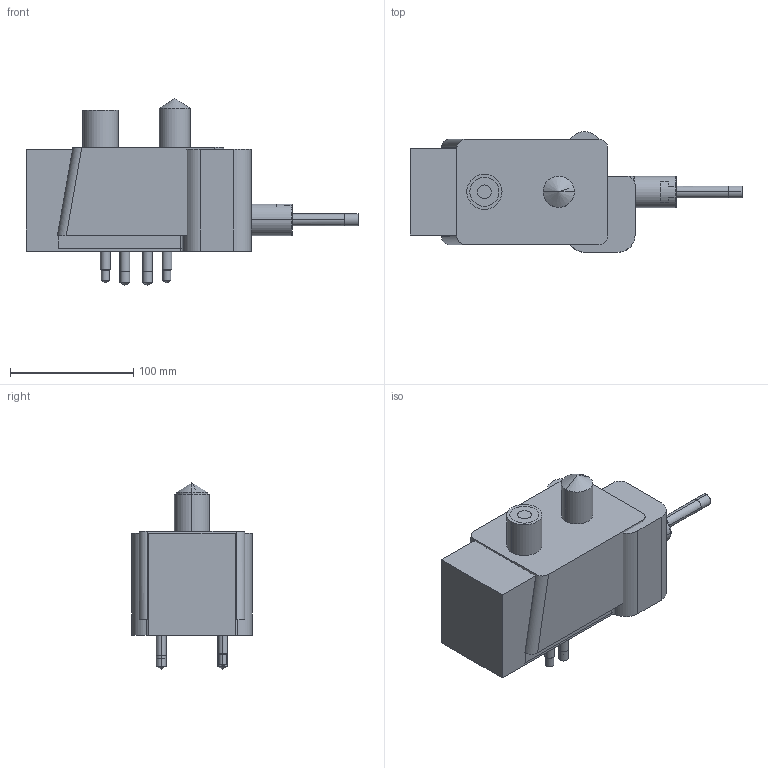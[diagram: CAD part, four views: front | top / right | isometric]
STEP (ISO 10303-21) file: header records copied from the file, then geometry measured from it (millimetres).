
FILE_DESCRIPTION((' '),'2;1');
FILE_NAME( 'EZ-00-P-L.stp', '2023-11-30T09:05:38', (' '), ('--- Datakit www.datakit.com---'), ' Datakit CrossCadWare V2020.4 Oct 21 2020', 'Export from SolidLink (Hexagon Production Software)', ' ');
FILE_SCHEMA(('AP242_MANAGED_MODEL_BASED_3D_ENGINEERING_MIM_LF { 1 0 10303 442 1 1 4 }'));
Length unit declared in the file: millimetre
Products named in the file (127): Workplanes; 1700579024; 1679433225; 1700503325; 1700503431; 1679424789; 1679424790; 1679424791; 1583513862; 1667491391; 1679424795; 1679424814; 1679424821; 1679424822; 1679424823; 1679424824; 1679424825; 1700842987; 1700843223; 1701270764; 1701353138; 1701353139; 1701353140; 1701353141; 1701353142; 1701353143; 1701353144; 1701353145; 1701353146; 1701353147; 1701353148; 1701353149; 1701353150; 1701353151; 1701353152; 1701353153; 1701353154; 1701353155; 1701353156; 1701353157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
Bounding box: 269.42 x 97.75 x 151.64 mm (x, y, z)
Volume: 2687510.6 mm3; surface area: 239424.5 mm2
Topology: 18 solids, 19 shells, 468 faces, 1323 edges, 1111 vertices
Faces by surface type: cylinder 184, plane 162, cone 102, sphere 6, torus 6, bspline 4, revolution 4
Entity records: 21028 total; most frequent: CARTESIAN_POINT 7441, DIRECTION 2726, ORIENTED_EDGE 2186, EDGE_CURVE 1099, AXIS2_PLACEMENT_3D 1079, VERTEX_POINT 703, VECTOR 564, LINE 564
